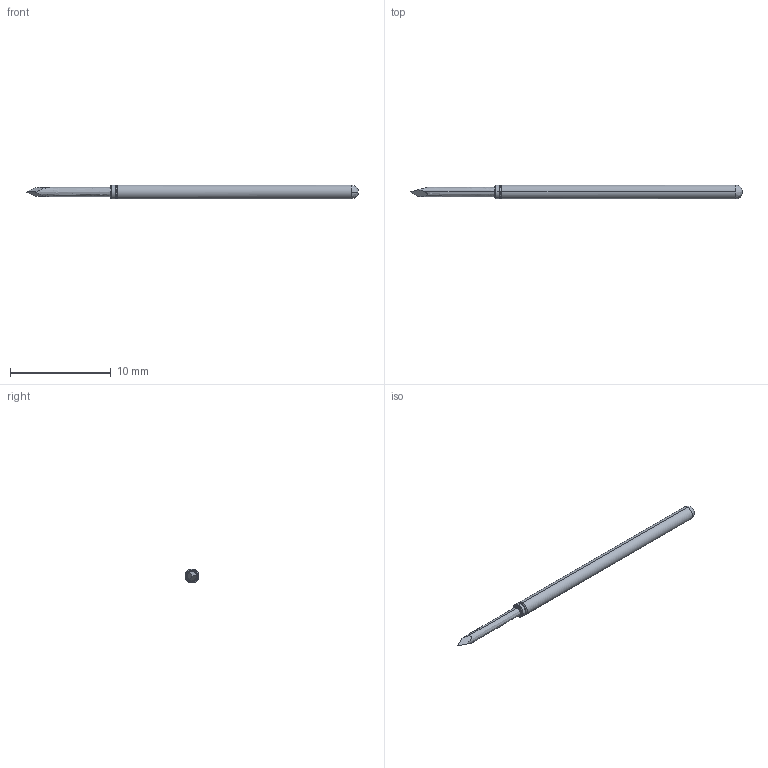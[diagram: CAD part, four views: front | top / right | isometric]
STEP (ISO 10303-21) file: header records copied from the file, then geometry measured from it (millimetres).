
FILE_DESCRIPTION (( 'STEP AP214' ), '1' );
FILE_NAME ('PA4T-041.STEP', '2022-07-11T14:28:04', ( '' ), ( '' ), 'SwSTEP 2.0', 'SolidWorks 2022', '' );
FILE_SCHEMA (( 'AUTOMOTIVE_DESIGN' ));
Length unit declared in the file: inch
Products named in the file (1): PA4T-041
Bounding box: 33.02 x 1.37 x 1.37 mm (x, y, z)
Volume: 40.9 mm3; surface area: 129.7 mm2
Topology: 1 solids, 1 shells, 21 faces, 44 edges, 26 vertices
Faces by surface type: bspline 21
Entity records: 786 total; most frequent: CARTESIAN_POINT 487, ORIENTED_EDGE 88, EDGE_CURVE 44, VERTEX_POINT 26, B_SPLINE_CURVE_WITH_KNOTS 24, EDGE_LOOP 22, FACE_OUTER_BOUND 21, ADVANCED_FACE 21
